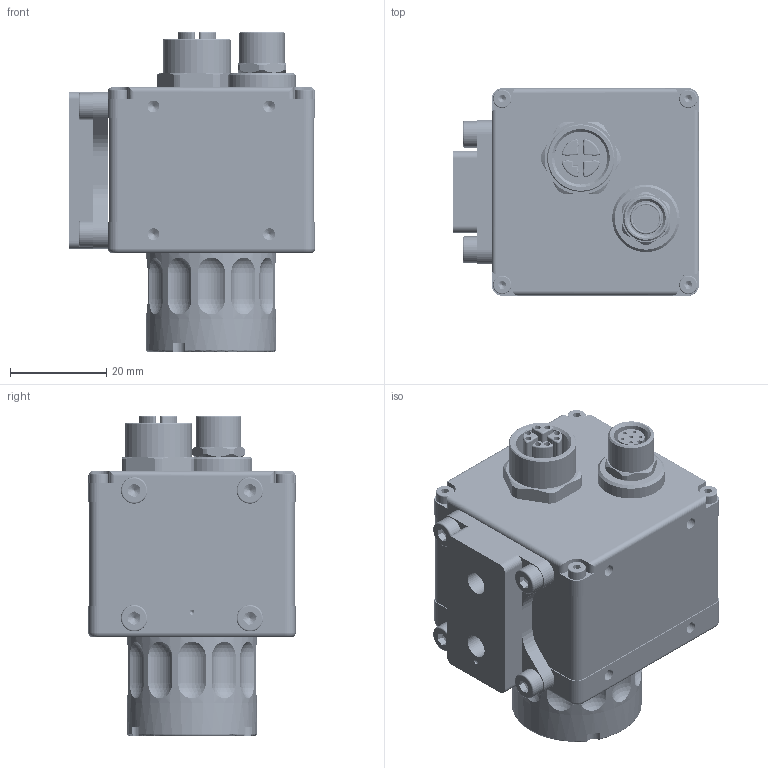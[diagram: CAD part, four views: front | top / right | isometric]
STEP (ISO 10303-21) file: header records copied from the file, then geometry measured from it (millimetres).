
FILE_DESCRIPTION(/* description */ ('Tab.ZB_IP67-Cam_GigE-4SB_rear connector.iam'),/* implementation_level */ '2;1');
FILE_NAME(/* name */ '317-25-01-xx-00_IP67-Cam_GigE-4SB_rear connector.stp',/* time_stamp */ '2026-02-11T21:51:43+01:00',/* author */ ('khw'),/* organization */ ('TIS/ Germany'),/* preprocessor_version */ 'ST-DEVELOPER v20',/* originating_system */ 'Autodesk Inventor 2025',/* authorisation */ '520025 mm^3');
FILE_SCHEMA (('AUTOMOTIVE_DESIGN { 1 0 10303 214 3 1 1 }'));
Products named in the file (29): 317-25-01-xx-00_Tab.ZB_IP67-Cam_GigE-4SB_rear connector; ENG-040366_SW0001; Same_Sky_CDM807-06A-FW-R805-050-67; CDM807 HOUSING (o.Mutter u.O-Ring); M8_WIRES_FEMALE_FRONT_6P; O-Ring_7x1,5; CDM807 Mutter; Flexkabel_Vertikaler ZIF_Deckel; PoE-Board_4G-GJ0-0120_GigE4-SB_add-on_10-09-25; Mini-Objektiv2; Sensorboard_4G-JB0_GigE-4SB_IP67_MB_VERT-ZIF_AR2020_10-10-25; ISO 4762 - M3 x 6 - 8.8; ISO 7045 - M2 x 4 - 4.8 - H; ISO 4762  - M2 x 8; 317-25-01-00-01_Gehäuse; 317-25-01-00-02_Deckel; 317-25-00-00-03_Druckscheibe M12x0,5x2; 317-25-00-00-04_TripodAdapter 24x26,5; 275-20-0-23-00_ZB Objektiv-Schutzglocke ø27 x 20,
5; 275-20-0-23-01_Schutzrohr ø27 x 18; 275-20-0-20-00_ZB Schutzfilter; 275-20-0-20-01_Schraubring; 275-20-0-20-02_Glasronde ø24,2; O-Ring_23,5 x1,0_NBR70_(radial ø25,3); O-Ring_23,5x1,0_NBR70_axial-verf; Distanzbolzen-IA-M2x12_0200035_SIBALCO; O-Ring_42 x1_NBR70_22368_axial-verf_(Vierkant); O-Ring_20x1,0_NBR70_17105_axial-verf; O-Ring_12x1,5_NBR50_136793_axial-verf
Assembly tree (38 placements, depth 4):
  317-25-01-xx-00_Tab.ZB_IP67-Cam_GigE-4SB_rear connector
    ENG-040366_SW0001
    Same_Sky_CDM807-06A-FW-R805-050-67
      CDM807 HOUSING (o.Mutter u.O-Ring)
      M8_WIRES_FEMALE_FRONT_6P
      O-Ring_7x1,5
      CDM807 Mutter
    Flexkabel_Vertikaler ZIF_Deckel
    PoE-Board_4G-GJ0-0120_GigE4-SB_add-on_10-09-25
    Mini-Objektiv2
    Sensorboard_4G-JB0_GigE-4SB_IP67_MB_VERT-ZIF_AR2020_10-10-25
    ISO 4762 - M3 x 6 - 8.8  x4
    ISO 7045 - M2 x 4 - 4.8 - H  x4
    ISO 4762  - M2 x 8  x4
    317-25-01-00-01_Gehäuse
    317-25-01-00-02_Deckel
    317-25-00-00-03_Druckscheibe M12x0,5x2
    317-25-00-00-04_TripodAdapter 24x26,5
    275-20-0-23-00_ZB Objektiv-Schutzglocke ø27 x 20,
5
      275-20-0-23-01_Schutzrohr ø27 x 18
      275-20-0-20-00_ZB Schutzfilter
        275-20-0-20-01_Schraubring
        275-20-0-20-02_Glasronde ø24,2
        O-Ring_23,5 x1,0_NBR70_(radial ø25,3)
      O-Ring_23,5x1,0_NBR70_axial-verf
    Distanzbolzen-IA-M2x12_0200035_SIBALCO  x2
    O-Ring_42 x1_NBR70_22368_axial-verf_(Vierkant)
    O-Ring_20x1,0_NBR70_17105_axial-verf
    O-Ring_12x1,5_NBR50_136793_axial-verf
Bounding box: 51 x 43 x 66.5 mm (x, y, z)
Volume: 49067.5 mm3; surface area: 45814.7 mm2
Topology: 47 solids, 47 shells, 13378 faces, 31670 edges, 17276 vertices
Faces by surface type: cylinder 5416, plane 4985, torus 1366, sphere 1364, cone 198, bspline 49
Full cylindrical faces by diameter (mm): 0.3 x1, 0.5 x6, 0.725 x8, 0.739 x1, 0.8 x20, 0.95 x3, 1 x1, 1.05 x2, 1.1 x8, 1.2 x2, 1.225 x8, 1.29 x8, 1.567 x10, 1.783 x4, 2 x10, 2.1 x6, 2.3 x6, 2.459 x16, 3 x4, 3.4 x4, 3.8 x4, 4.917 x1, 4.978 x1, 5.5 x4, 5.6 x1, 6 x2, 6.8 x1, 7 x2, 7.2 x1, 7.459 x1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
Entity records: 377783 total; most frequent: DIRECTION 67134, CARTESIAN_POINT 63610, ORIENTED_EDGE 59426, EDGE_CURVE 29713, AXIS2_PLACEMENT_3D 24511, LINE 18112, VECTOR 18112, VERTEX_POINT 16938
